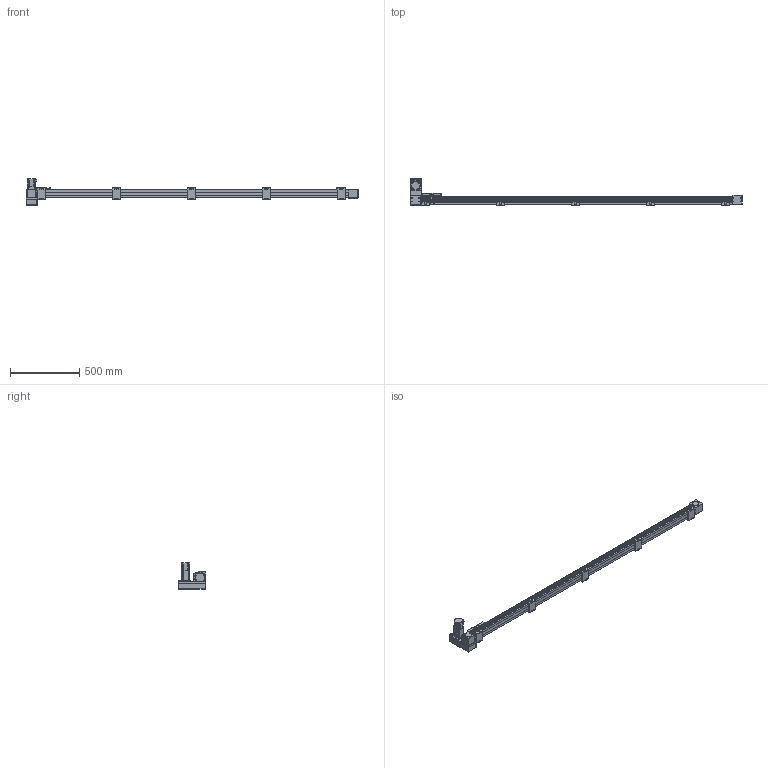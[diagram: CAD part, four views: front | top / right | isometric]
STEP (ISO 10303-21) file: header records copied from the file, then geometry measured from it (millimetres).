
FILE_DESCRIPTION(/* description */ ('STEP AP214'),/* implementation_level */ '2;1');
FILE_NAME(/* name */ 'SK60-P13-S2100-LU-T40-C1-N(0)',/* time_stamp */ '2023-04-06T04:48:30+02:00',/* author */ ('License CC BY-ND 4.0'),/* organization */ ('CADENAS'),/* preprocessor_version */ 'ST-DEVELOPER v19.3',/* originating_system */ 'PARTsolutions',/* authorisation */ ' ');
FILE_SCHEMA (('AUTOMOTIVE_DESIGN {1 0 10303 214 3 1 1}'));
Length unit declared in the file: millimetre
Products named in the file (10): SK60-P13-S2100-LU-T40-C1-N(0); PSC140-sensor; SK60-S450_seat; SK60-S450-BL-C1_slider; SK60_body3; SK60_body6; SK60-BL_body2; T40-p1; SK60-LU_fb; SK60-S2100-LU-C1_body
Assembly tree (19 placements, depth 2):
  SK60-P13-S2100-LU-T40-C1-N(0)
    PSC140-sensor  x3
    SK60-S450_seat  x5
    SK60-S450-BL-C1_slider
    SK60_body3  x3
    SK60_body6  x2
    SK60-BL_body2  x2
    T40-p1
    SK60-LU_fb
    SK60-S2100-LU-C1_body
Bounding box: 2405.5 x 201 x 189.7 mm (x, y, z)
Volume: 9391838 mm3; surface area: 1124480.4 mm2
Topology: 19 solids, 19 shells, 942 faces, 2342 edges, 1541 vertices
Faces by surface type: plane 596, cylinder 310, cone 34, torus 2
Full cylindrical faces by diameter (mm): 2.8 x3, 3.3 x4, 4 x2, 4.5 x30, 4.6 x3, 4.917 x28, 5 x6, 5.478 x4, 5.5 x31, 6.5 x10, 7 x2, 8 x4, 8.5 x4, 9.988 x4, 10 x20, 14 x1, 47 x3, 50 x2
Entity records: 18679 total; most frequent: DIRECTION 3190, CARTESIAN_POINT 3153, ORIENTED_EDGE 2940, EDGE_CURVE 1470, AXIS2_PLACEMENT_3D 1071, LINE 1048, VECTOR 1048, VERTEX_POINT 1034
